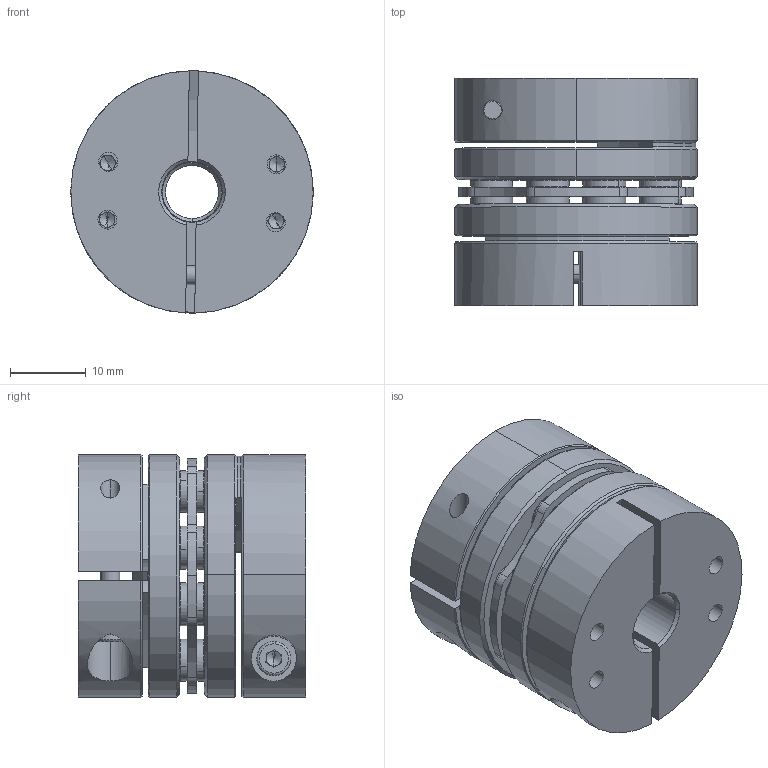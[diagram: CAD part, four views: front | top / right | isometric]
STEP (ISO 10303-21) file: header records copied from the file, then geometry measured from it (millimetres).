
FILE_DESCRIPTION (( 'STEP AP203' ), '1' );
FILE_NAME ('LDG-32-B1-7-8.STEP', '2021-10-28T05:09:37', ( '' ), ( '' ), 'SwSTEP 2.0', 'SolidWorks 2018', '' );
FILE_SCHEMA (( 'CONFIG_CONTROL_DESIGN' ));
Length unit declared in the file: millimetre
Products named in the file (2): 錨璃5^LDG-32蚾饜芞1; LDG-32-B1-7-8
Assembly tree (1 placements, depth 2):
  LDG-32-B1-7-8
    錨璃5^LDG-32蚾饜芞1
Bounding box: 32 x 30 x 32 mm (x, y, z)
Volume: 18679.4 mm3; surface area: 13357.4 mm2
Topology: 1 solids, 11 shells, 795 faces, 1967 edges, 1216 vertices
Faces by surface type: cylinder 301, plane 244, cone 230, torus 20
Entity records: 24191 total; most frequent: CARTESIAN_POINT 4472, DIRECTION 4465, ORIENTED_EDGE 3878, EDGE_CURVE 1939, AXIS2_PLACEMENT_3D 1819, VERTEX_POINT 1216, CIRCLE 1020, EDGE_LOOP 939
